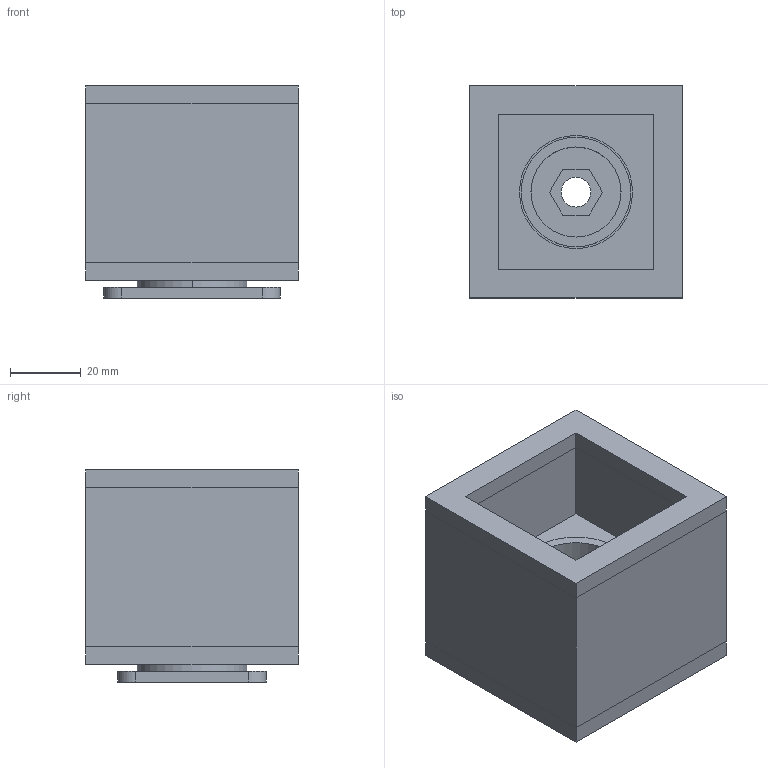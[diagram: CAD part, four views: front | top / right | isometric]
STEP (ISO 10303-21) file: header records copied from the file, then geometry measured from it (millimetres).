
FILE_DESCRIPTION (( 'STEP AP203' ), '1' );
FILE_NAME ('Nábytková noha ètvercová 60x60mm 60mm_87016_153306.STEP', '2022-12-02T13:09:24', ( '' ), ( '' ), 'SwSTEP 2.0', 'SolidWorks 2019', '' );
FILE_SCHEMA (( 'CONFIG_CONTROL_DESIGN' ));
Length unit declared in the file: millimetre
Products named in the file (3): zdvih nohy 40 a 60; noha 60x60 mala; Nábytková noha ètvercová 60x60mm 60mm_87016_153306
Assembly tree (2 placements, depth 2):
  Nábytková noha ètvercová 60x60mm 60mm_87016_153306
    noha 60x60 mala
    zdvih nohy 40 a 60
Bounding box: 60 x 60 x 60 mm (x, y, z)
Volume: 141017.4 mm3; surface area: 45797.5 mm2
Topology: 4 solids, 4 shells, 70 faces, 168 edges, 112 vertices
Faces by surface type: plane 44, cylinder 26
Entity records: 2377 total; most frequent: DIRECTION 370, CARTESIAN_POINT 355, ORIENTED_EDGE 336, EDGE_CURVE 168, AXIS2_PLACEMENT_3D 127, VECTOR 116, LINE 116, VERTEX_POINT 112
